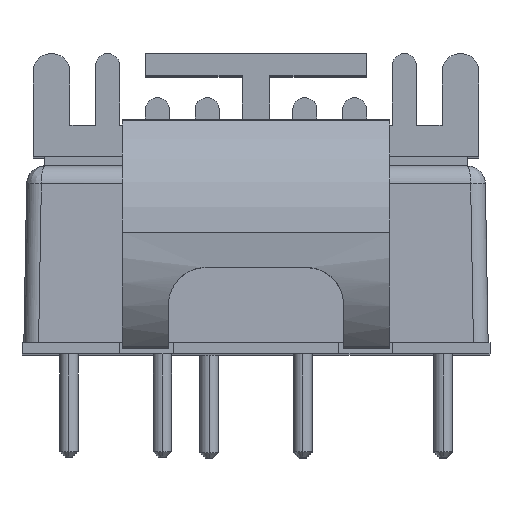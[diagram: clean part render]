
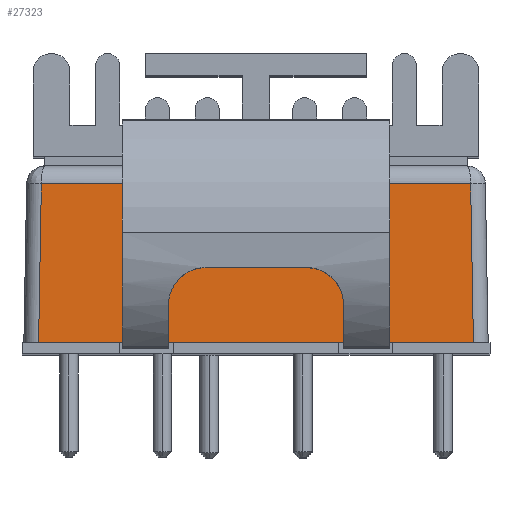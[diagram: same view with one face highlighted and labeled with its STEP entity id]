
A CAD part, top view. The second image highlights one B-rep face of the part: STEP entity #27323.
In plain terms, the highlighted planar face has unit normal (0, 0.018, 1).
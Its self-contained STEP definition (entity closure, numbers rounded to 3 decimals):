
#156 = CARTESIAN_POINT ( 'NONE',  ( -11.65, 9.217, 25.1 ) ) ;
#267 = VECTOR ( 'NONE', #16354, 1000. ) ;
#362 = CARTESIAN_POINT ( 'NONE',  ( 4.5, 0.6, 25.25 ) ) ;
#1016 = VECTOR ( 'NONE', #14191, 1000. ) ;
#1299 = ORIENTED_EDGE ( 'NONE', *, *, #22795, .T. ) ;
#1382 = CARTESIAN_POINT ( 'NONE',  ( 11.8, 0.6, 25.25 ) ) ;
#2112 = CARTESIAN_POINT ( 'NONE',  ( 7.4, 0.6, 25.25 ) ) ;
#2194 = VERTEX_POINT ( 'NONE', #27314 ) ;
#3173 = VECTOR ( 'NONE', #9739, 1000. ) ;
#3281 = VECTOR ( 'NONE', #16680, 1000. ) ;
#3952 = CARTESIAN_POINT ( 'NONE',  ( -12.7, 0.6, 25.25 ) ) ;
#4178 = LINE ( 'NONE', #8132, #3281 ) ;
#4319 = EDGE_LOOP ( 'NONE', ( #28988, #23158, #1299, #35841, #29257, #32343, #26504, #4503 ) ) ;
#4417 = CARTESIAN_POINT ( 'NONE',  ( -11.65, 9.217, 25.1 ) ) ;
#4503 = ORIENTED_EDGE ( 'NONE', *, *, #31569, .F. ) ;
#5342 = VERTEX_POINT ( 'NONE', #2112 ) ;
#6061 = EDGE_CURVE ( 'NONE', #36009, #15151, #35995, .T. ) ;
#6736 = VECTOR ( 'NONE', #8314, 1000. ) ;
#6895 = CARTESIAN_POINT ( 'NONE',  ( -12.6, 0.6, 25.25 ) ) ;
#7280 = EDGE_CURVE ( 'NONE', #2194, #22752, #4178, .T. ) ;
#8132 = CARTESIAN_POINT ( 'NONE',  ( -12.6, 0.6, 25.25 ) ) ;
#8314 = DIRECTION ( 'NONE',  ( -1., 0., 0. ) ) ;
#8953 = VERTEX_POINT ( 'NONE', #25693 ) ;
#9739 = DIRECTION ( 'NONE',  ( -1., 0., 0. ) ) ;
#9789 = DIRECTION ( 'NONE',  ( 0., -1., 0.017 ) ) ;
#11503 = CARTESIAN_POINT ( 'NONE',  ( -12.7, 0.6, 25.25 ) ) ;
#12651 = LINE ( 'NONE', #11503, #1016 ) ;
#13187 = LINE ( 'NONE', #1382, #27401 ) ;
#13352 = AXIS2_PLACEMENT_3D ( 'NONE', #6895, #26779, #9789 ) ;
#13719 = VECTOR ( 'NONE', #24485, 1000. ) ;
#14191 = DIRECTION ( 'NONE',  ( -1., 0., 0. ) ) ;
#15151 = VERTEX_POINT ( 'NONE', #20360 ) ;
#16197 = VERTEX_POINT ( 'NONE', #33706 ) ;
#16354 = DIRECTION ( 'NONE',  ( 1., 0., 0. ) ) ;
#16680 = DIRECTION ( 'NONE',  ( 1., 0., 0. ) ) ;
#16889 = VERTEX_POINT ( 'NONE', #362 ) ;
#18515 = EDGE_CURVE ( 'NONE', #8953, #5342, #28517, .T. ) ;
#20360 = CARTESIAN_POINT ( 'NONE',  ( -11.8, 0.6, 25.25 ) ) ;
#20780 = PLANE ( 'NONE',  #13352 ) ;
#21298 = DIRECTION ( 'NONE',  ( -0.017, 1., -0.017 ) ) ;
#21613 = CARTESIAN_POINT ( 'NONE',  ( -12.6, 9.217, 25.1 ) ) ;
#22717 = DIRECTION ( 'NONE',  ( -0.017, -1., 0.017 ) ) ;
#22752 = VERTEX_POINT ( 'NONE', #27570 ) ;
#22795 = EDGE_CURVE ( 'NONE', #16889, #5342, #29721, .T. ) ;
#23033 = LINE ( 'NONE', #21613, #13719 ) ;
#23158 = ORIENTED_EDGE ( 'NONE', *, *, #25847, .F. ) ;
#24466 = EDGE_CURVE ( 'NONE', #16197, #36009, #23033, .T. ) ;
#24485 = DIRECTION ( 'NONE',  ( -1., 0., 0. ) ) ;
#25346 = CARTESIAN_POINT ( 'NONE',  ( -12.7, 0.6, 25.25 ) ) ;
#25693 = CARTESIAN_POINT ( 'NONE',  ( 11.8, 0.6, 25.25 ) ) ;
#25847 = EDGE_CURVE ( 'NONE', #16889, #22752, #12651, .T. ) ;
#26504 = ORIENTED_EDGE ( 'NONE', *, *, #6061, .T. ) ;
#26779 = DIRECTION ( 'NONE',  ( 0., 0.017, 1. ) ) ;
#27314 = CARTESIAN_POINT ( 'NONE',  ( -7.4, 0.6, 25.25 ) ) ;
#27323 = ADVANCED_FACE ( 'NONE', ( #32513 ), #20780, .T. ) ;
#27401 = VECTOR ( 'NONE', #21298, 1000. ) ;
#27570 = CARTESIAN_POINT ( 'NONE',  ( -4.5, 0.6, 25.25 ) ) ;
#28517 = LINE ( 'NONE', #25346, #6736 ) ;
#28988 = ORIENTED_EDGE ( 'NONE', *, *, #7280, .T. ) ;
#29257 = ORIENTED_EDGE ( 'NONE', *, *, #30673, .T. ) ;
#29721 = LINE ( 'NONE', #30471, #267 ) ;
#30471 = CARTESIAN_POINT ( 'NONE',  ( -12.6, 0.6, 25.25 ) ) ;
#30673 = EDGE_CURVE ( 'NONE', #8953, #16197, #13187, .T. ) ;
#31569 = EDGE_CURVE ( 'NONE', #2194, #15151, #33468, .T. ) ;
#32343 = ORIENTED_EDGE ( 'NONE', *, *, #24466, .T. ) ;
#32513 = FACE_OUTER_BOUND ( 'NONE', #4319, .T. ) ;
#33468 = LINE ( 'NONE', #3952, #3173 ) ;
#33706 = CARTESIAN_POINT ( 'NONE',  ( 11.65, 9.217, 25.1 ) ) ;
#35096 = VECTOR ( 'NONE', #22717, 1000. ) ;
#35841 = ORIENTED_EDGE ( 'NONE', *, *, #18515, .F. ) ;
#35995 = LINE ( 'NONE', #156, #35096 ) ;
#36009 = VERTEX_POINT ( 'NONE', #4417 ) ;
